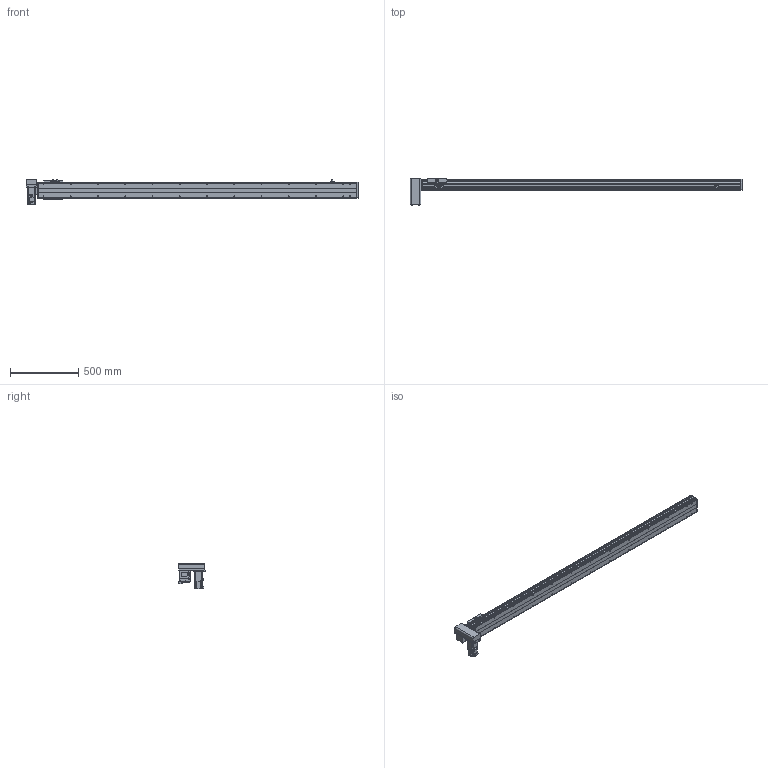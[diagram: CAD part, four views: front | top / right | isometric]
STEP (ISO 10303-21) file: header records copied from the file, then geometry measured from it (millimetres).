
FILE_DESCRIPTION(/* description */ ('STEP AP214'),/* implementation_level */ '2;1');
FILE_NAME(/* name */ 'PBS120-P40-S2050-RD-T40-C1-N(0)',/* time_stamp */ '2022-06-06T02:43:32+02:00',/* author */ ('License CC BY-ND 4.0'),/* organization */ ('CADENAS'),/* preprocessor_version */ 'ST-DEVELOPER v18.102',/* originating_system */ 'PARTsolutions',/* authorisation */ ' ');
FILE_SCHEMA (('AUTOMOTIVE_DESIGN {1 0 10303 214 3 1 1}'));
Length unit declared in the file: millimetre
Products named in the file (7): PBS120-P40-S2050-RD-T40-C1-N(0); PBS120_sensor; PBS120_plant; PBS120_sliser; T40-p1; PBS120T-RD_motors; PBS120-S2050()_body
Assembly tree (8 placements, depth 2):
  PBS120-P40-S2050-RD-T40-C1-N(0)
    PBS120_sensor  x3
    PBS120_plant
    PBS120_sliser
    T40-p1
    PBS120T-RD_motors
    PBS120-S2050()_body
Bounding box: 2436 x 196 x 189.7 mm (x, y, z)
Volume: 9378783.9 mm3; surface area: 1917974.9 mm2
Topology: 8 solids, 8 shells, 858 faces, 2206 edges, 1417 vertices
Faces by surface type: plane 559, cylinder 239, cone 58, torus 2
Full cylindrical faces by diameter (mm): 2.459 x6, 3.242 x4, 4 x2, 4.134 x4, 4.5 x10, 4.917 x30, 5.5 x11, 6 x2, 6.6 x1, 7 x2, 8.5 x4, 9 x4, 12 x1, 14 x1, 30 x2, 40 x1, 50 x2
Entity records: 22194 total; most frequent: DIRECTION 3860, CARTESIAN_POINT 3767, ORIENTED_EDGE 3562, EDGE_CURVE 1781, AXIS2_PLACEMENT_3D 1316, LINE 1228, VECTOR 1228, VERTEX_POINT 1223
